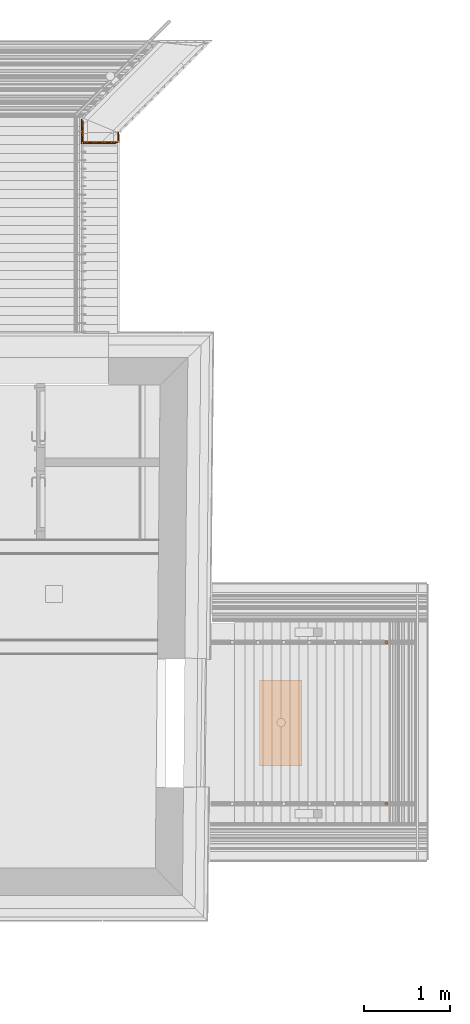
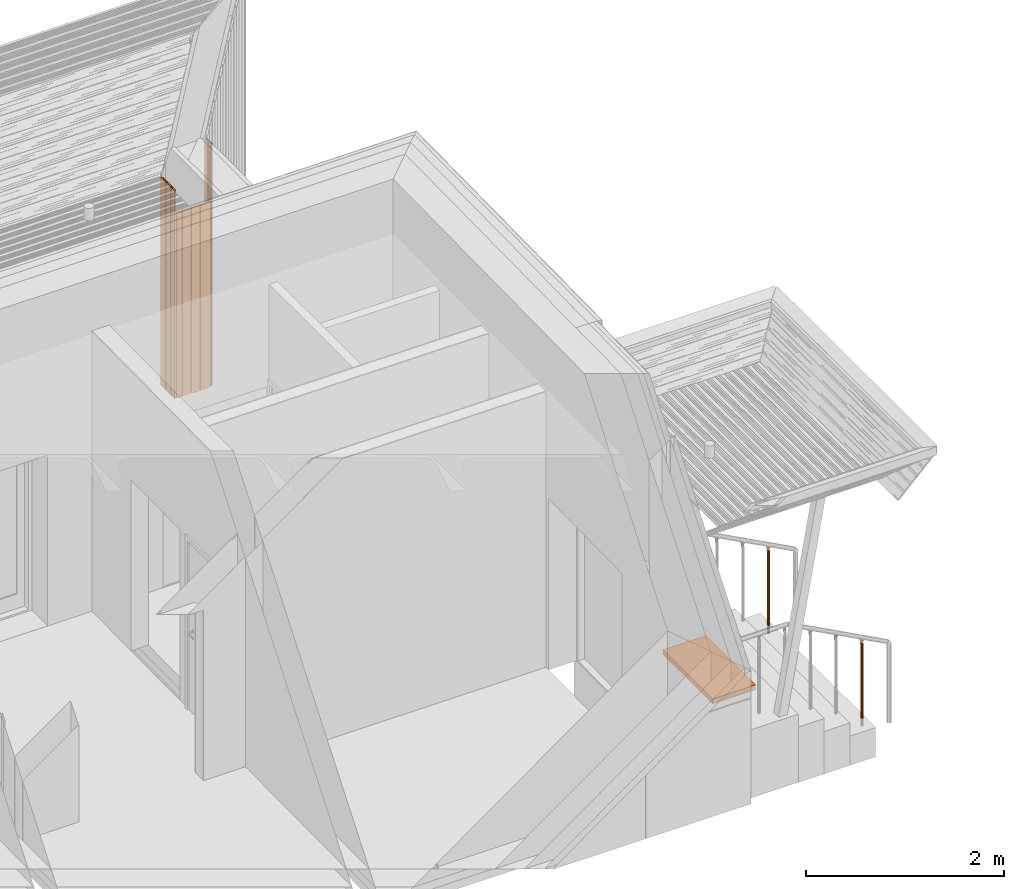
# One storey, part 356 of 418: 11 proxies, 2 elements without a shape of their own.
"""IFC2X3 building model written with IfcOpenShell, lengths in millimetres."""

from ifc_helpers import new_model, entity, si_unit, converted_unit, derived_unit, money_unit, direction, frame, origin_with_axes, place, context, subcontext, project, spatial, polyline, outline, extrude, faceted_brep, source, transform, mapped, material, type_object, element, aggregate, save


model = new_model("IFC2X3")

# Units and contexts
model_context = context("Model", 3, precision=0.01, world=origin_with_axes(), true_north=direction((0.0, 1.0)))
body_context = subcontext(model_context, "Body", "Model", "MODEL_VIEW")
ifc_project = project(units=[si_unit("LENGTHUNIT", "METRE", prefix="MILLI"), si_unit("AREAUNIT", "SQUARE_METRE"), si_unit("VOLUMEUNIT", "CUBIC_METRE"), converted_unit("PLANEANGLEUNIT", "DEGREE", entity("IfcPlaneAngleMeasure", 0.0174532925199), si_unit("PLANEANGLEUNIT", "RADIAN"), dimensions=[0, 0, 0, 0, 0, 0, 0]), si_unit("SOLIDANGLEUNIT", "STERADIAN"), money_unit("EUR"), converted_unit("TIMEUNIT", "Year", entity("IfcTimeMeasure", 31556926.0), si_unit("TIMEUNIT", "SECOND"), dimensions=[0, 0, 1, 0, 0, 0, 0]), si_unit("MASSUNIT", "GRAM", prefix="KILO"), si_unit("THERMODYNAMICTEMPERATUREUNIT", "DEGREE_CELSIUS"), si_unit("LUMINOUSINTENSITYUNIT", "LUMEN"), si_unit("ENERGYUNIT", "JOULE", prefix="MEGA"), derived_unit("THERMALCONDUCTANCEUNIT", [(si_unit("POWERUNIT", "WATT"), 1), (si_unit("LENGTHUNIT", "METRE"), -1), (si_unit("THERMODYNAMICTEMPERATUREUNIT", "KELVIN"), -1)]), derived_unit("SPECIFICHEATCAPACITYUNIT", [(si_unit("ENERGYUNIT", "JOULE"), 1), (si_unit("MASSUNIT", "GRAM", prefix="KILO"), -1), (si_unit("THERMODYNAMICTEMPERATUREUNIT", "KELVIN"), -1)]), derived_unit("MASSDENSITYUNIT", [(si_unit("MASSUNIT", "GRAM", prefix="KILO"), 1), (si_unit("VOLUMEUNIT", "CUBIC_METRE"), -1)])], contexts=[model_context])

# Site, building, storey
site_placement = place(None, origin_with_axes())
site = spatial("IfcSite", under=ifc_project, at=site_placement, Name="Paldiski mnt 245/1, Tallinn, Harjumaa", CompositionType="COMPLEX")
building_placement = place(site_placement, origin_with_axes())
building = spatial("IfcBuilding", under=site, at=building_placement, Name="RKAS Hoone üldnimetus (kasutust iseloomustav) -> IFC Project Manager -> SOLIBRI", CompositionType="ELEMENT")
storey_placement = place(building_placement, origin_with_axes())
storey = spatial("IfcBuildingStorey", under=building, at=storey_placement, Name="Esimene korrus", CompositionType="ELEMENT", Elevation=0.0)

# Proxies
ifc_material_1 = material(Name="ET-01_Puit - Konstruktsioon")
building_element_proxy_type_1 = type_object("IfcBuildingElementProxyType", Name="ET-01_Puit - Konstruktsioon 2280", PredefinedType="NOTDEFINED")
proxy_1_placement = place(storey_placement, frame((-48034.0862621, 38595.147957, 2280.0), z_axis=(0.0, 0.0, 1.0), x_axis=(1.0, 0.0, 0.0)))
element("IfcBuildingElementProxy", 1, at=proxy_1_placement, inside=storey, type_object=building_element_proxy_type_1, material=ifc_material_1, Name="Varikatus", context=body_context, shape_type="SweptSolid", body=[
    extrude(outline(polyline([(0.0, 0.0), (-3.55868223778e-07, 10.4999992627), (-37.5260948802, 10.5000002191), (-37.5260958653, 3.49999970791), (-43.8885929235, 3.49999940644), (-43.8885931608, 10.4999989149), (-58.8277103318, 10.4999987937), (-58.8277100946, 3.49999928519), (-64.9546507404, 3.4999997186), (-64.9546509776, 10.4999992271), (-79.7831433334, 10.5000001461), (-79.7831443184, 3.49999963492), (-85.4238127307, 3.5000002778), (-85.423812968, 10.4999997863), (-100.000000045, 10.4999994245), (-100.000001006, -0.500000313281), (-120.000000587, -0.500001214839), (-120.000000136, -10.5000010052), (-20.0000004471, -10.500001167), (-20.0000005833, 3.20746096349e-07), (0.0, 0.0)])), frame((0.0, 0.0, -2280.0), z_axis=(0.0, 0.0, 1.0), x_axis=(1.0, 0.0, 0.0)), (0.0, 0.0, 1.0), 2280.0),
])
proxy_2_placement = place(storey_placement, frame((-47929.0862621, 38595.147957, 2280.0), z_axis=(0.0, 0.0, 1.0), x_axis=(1.0, 0.0, 0.0)))
element("IfcBuildingElementProxy", 2, at=proxy_2_placement, inside=storey, type_object=building_element_proxy_type_1, material=ifc_material_1, Name="Varikatus", context=body_context, shape_type="SweptSolid", body=[
    extrude(outline(polyline([(0.0, 0.0), (-3.55868223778e-07, 10.4999992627), (-37.5260948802, 10.5000002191), (-37.5260958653, 3.49999970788), (-43.8885929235, 3.49999940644), (-43.8885931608, 10.4999989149), (-58.8277103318, 10.4999987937), (-58.8277100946, 3.49999928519), (-64.9546507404, 3.49999971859), (-64.9546509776, 10.4999992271), (-79.7831433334, 10.5000001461), (-79.7831443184, 3.4999996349), (-85.4238127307, 3.50000027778), (-85.423812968, 10.4999997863), (-100.000000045, 10.4999994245), (-100.000001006, -0.500000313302), (-120.000000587, -0.50000121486), (-120.000000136, -10.5000010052), (-20.0000004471, -10.500001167), (-20.0000005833, 3.20753201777e-07), (0.0, 0.0)])), frame((0.0, 0.0, -2280.0), z_axis=(0.0, 0.0, 1.0), x_axis=(1.0, 0.0, 0.0)), (0.0, 0.0, 1.0), 2280.0),
])
proxy_3_placement = place(storey_placement, frame((-47824.0862621, 38595.147957, 2280.0), z_axis=(0.0, 0.0, 1.0), x_axis=(1.0, 0.0, 0.0)))
element("IfcBuildingElementProxy", 3, at=proxy_3_placement, inside=storey, type_object=building_element_proxy_type_1, material=ifc_material_1, Name="Varikatus", context=body_context, shape_type="SweptSolid", body=[
    extrude(outline(polyline([(0.0, 0.0), (-3.55854012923e-07, 10.4999992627), (-37.5260948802, 10.5000002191), (-37.5260958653, 3.49999970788), (-43.8885929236, 3.49999940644), (-43.8885931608, 10.4999989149), (-58.8277103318, 10.4999987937), (-58.8277100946, 3.49999928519), (-64.9546507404, 3.49999971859), (-64.9546509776, 10.4999992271), (-79.7831433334, 10.5000001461), (-79.7831443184, 3.4999996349), (-85.4238127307, 3.50000027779), (-85.423812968, 10.4999997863), (-100.000000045, 10.4999994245), (-100.000001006, -0.500000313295), (-120.000000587, -0.50000121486), (-120.000000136, -10.5000010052), (-20.0000004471, -10.500001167), (-20.0000005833, 3.20746096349e-07), (0.0, 0.0)])), frame((0.0, 0.0, -2280.0), z_axis=(0.0, 0.0, 1.0), x_axis=(1.0, 0.0, 0.0)), (0.0, 0.0, 1.0), 2280.0),
])
proxy_4_placement = place(storey_placement, frame((-48139.0862621, 38605.6479558, 2280.0), z_axis=(0.0, 0.0, 1.0), x_axis=(1.0, 0.0, 0.0)))
element("IfcBuildingElementProxy", 4, at=proxy_4_placement, inside=storey, type_object=building_element_proxy_type_1, material=ifc_material_1, Name="Varikatus", context=body_context, shape_type="SweptSolid", body=[
    extrude(outline(polyline([(0.0, 0.0), (-37.526094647, 1.74001968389e-06), (-37.5260959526, -6.99999911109), (-43.8885928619, -7.00000009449), (-43.8885924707, 6.5867311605e-09), (-58.8277106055, 2.26215490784e-07), (-58.8277100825, -6.9999991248), (-64.9546509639, -6.99999889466), (-64.954651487, 4.56360282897e-07), (-79.7831438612, 1.02994590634e-06), (-79.7831442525, -6.99999907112), (-85.4238125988, -6.99999889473), (-85.4238126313, -21.0000000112), (-20.0000004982, -21.0000003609), (-20.0000010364, -10.4999988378), (-4.75850470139e-08, -10.4999989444), (0.0, 0.0)])), frame((0.0, 0.0, -2280.0), z_axis=(0.0, 0.0, 1.0), x_axis=(1.0, 0.0, 0.0)), (0.0, 0.0, 1.0), 2280.0),
])
ifc_material_2 = material(Name="Raud")
building_element_proxy_type_2 = type_object("IfcBuildingElementProxyType", Name="Jalatsipuhastusrest", PredefinedType="NOTDEFINED")
shared_shape_1 = source(origin_with_axes(), body_context, "Body", "Brep", [
    faceted_brep([(5.0, 995.0, 280.0), (5.0, 5.0, 280.0), (5.0, 5.0, 300.0), (5.0, 995.0, 300.0), (495.0, 995.0, 280.0), (495.0, 5.0, 280.0), (495.0, 5.0, 300.0), (495.0, 995.0, 300.0)], [[[0, 1, 2, 3]], [[0, 4, 5, 1]], [[1, 5, 6, 2]], [[3, 2, 6, 7]], [[4, 0, 3, 7]], [[5, 4, 7, 6]]]),
    faceted_brep([(0.0, 1000.0, 240.0), (0.0, 0.0, 240.0), (0.0, 0.0, 300.0), (0.0, 1000.0, 300.0), (500.0, 1000.0, 240.0), (500.0, 0.0, 240.0), (5.0, 995.0, 240.0), (5.0, 5.0, 240.0), (495.0, 5.0, 240.0), (495.0, 995.0, 240.0), (500.0, 0.0, 300.0), (500.0, 1000.0, 300.0), (5.0, 995.0, 300.0), (495.0, 995.0, 300.0), (495.0, 5.0, 300.0), (5.0, 5.0, 300.0)], [[[0, 1, 2, 3]], [[0, 4, 5, 1], [6, 7, 8, 9]], [[1, 5, 10, 2]], [[3, 2, 10, 11], [12, 13, 14, 15]], [[4, 0, 3, 11]], [[5, 4, 11, 10]], [[7, 6, 12, 15]], [[8, 7, 15, 14]], [[9, 8, 14, 13]], [[6, 9, 13, 12]]]),
    faceted_brep([(0.0, 1000.0, 240.0), (0.0, 0.0, 240.0), (0.0, 0.0, 245.0), (0.0, 1000.0, 245.0), (500.0, 1000.0, 240.0), (500.0, 0.0, 240.0), (195.0, 495.1881235, 240.0), (196.67114717, 485.71057695, 240.0), (199.96266455, 476.66720728, 240.0), (204.77454104, 468.33279271, 240.0), (210.96057022, 460.96057022, 240.0), (218.33279272, 454.77454104, 240.0), (226.66720729, 449.96266454, 240.0), (235.71057695, 446.67114717, 240.0), (245.18812351, 445.0, 240.0), (254.8118765, 445.0, 240.0), (264.28942305, 446.67114717, 240.0), (273.33279272, 449.96266454, 240.0), (281.66720729, 454.77454104, 240.0), (289.03942978, 460.96057022, 240.0), (295.22545896, 468.33279271, 240.0), (300.03733546, 476.66720728, 240.0), (303.32885283, 485.71057695, 240.0), (305.0, 495.1881235, 240.0), (305.0, 500.0, 240.0), (305.0, 504.81187649, 240.0), (303.32885283, 514.28942305, 240.0), (300.03733546, 523.33279271, 240.0), (295.22545896, 531.66720728, 240.0), (289.03942978, 539.03942978, 240.0), (281.66720729, 545.22545896, 240.0), (273.33279272, 550.03733545, 240.0), (264.28942305, 553.32885283, 240.0), (254.8118765, 555.0, 240.0), (245.18812351, 555.0, 240.0), (235.71057695, 553.32885283, 240.0), (226.66720729, 550.03733545, 240.0), (218.33279272, 545.22545896, 240.0), (210.96057022, 539.03942978, 240.0), (204.77454104, 531.66720728, 240.0), (199.96266455, 523.33279271, 240.0), (196.67114717, 514.28942305, 240.0), (195.0, 504.81187649, 240.0), (500.0, 0.0, 245.0), (500.0, 1000.0, 245.0), (195.0, 495.1881235, 245.0), (195.0, 504.81187649, 245.0), (196.67114717, 514.28942305, 245.0), (199.96266455, 523.33279271, 245.0), (204.77454104, 531.66720728, 245.0), (210.96057022, 539.03942978, 245.0), (218.33279272, 545.22545896, 245.0), (226.66720729, 550.03733545, 245.0), (235.71057695, 553.32885283, 245.0), (245.18812351, 555.0, 245.0), (254.8118765, 555.0, 245.0), (264.28942305, 553.32885283, 245.0), (273.33279272, 550.03733545, 245.0), (281.66720729, 545.22545896, 245.0), (289.03942978, 539.03942978, 245.0), (295.22545896, 531.66720728, 245.0), (300.03733546, 523.33279271, 245.0), (303.32885283, 514.28942305, 245.0), (305.0, 504.81187649, 245.0), (305.0, 500.0, 245.0), (305.0, 495.1881235, 245.0), (303.32885283, 485.71057695, 245.0), (300.03733546, 476.66720728, 245.0), (295.22545896, 468.33279271, 245.0), (289.03942978, 460.96057022, 245.0), (281.66720729, 454.77454104, 245.0), (273.33279272, 449.96266454, 245.0), (264.28942305, 446.67114717, 245.0), (254.8118765, 445.0, 245.0), (245.18812351, 445.0, 245.0), (235.71057695, 446.67114717, 245.0), (226.66720729, 449.96266454, 245.0), (218.33279272, 454.77454104, 245.0), (210.96057022, 460.96057022, 245.0), (204.77454104, 468.33279271, 245.0), (199.96266455, 476.66720728, 245.0), (196.67114717, 485.71057695, 245.0)], [[[0, 1, 2, 3]], [[0, 4, 5, 1], [6, 7, 8, 9, 10, 11, 12, 13, 14, 15, 16, 17, 18, 19, 20, 21, 22, 23, 24, 25, 26, 27, 28, 29, 30, 31, 32, 33, 34, 35, 36, 37, 38, 39, 40, 41, 42]], [[1, 5, 43, 2]], [[3, 2, 43, 44], [45, 46, 47, 48, 49, 50, 51, 52, 53, 54, 55, 56, 57, 58, 59, 60, 61, 62, 63, 64, 65, 66, 67, 68, 69, 70, 71, 72, 73, 74, 75, 76, 77, 78, 79, 80, 81]], [[4, 0, 3, 44]], [[5, 4, 44, 43]], [[7, 6, 45, 81]], [[8, 7, 81, 80]], [[9, 8, 80, 79]], [[10, 9, 79, 78]], [[11, 10, 78, 77]], [[12, 11, 77, 76]], [[13, 12, 76, 75]], [[14, 13, 75, 74]], [[15, 14, 74, 73]], [[16, 15, 73, 72]], [[17, 16, 72, 71]], [[18, 17, 71, 70]], [[19, 18, 70, 69]], [[20, 19, 69, 68]], [[21, 20, 68, 67]], [[22, 21, 67, 66]], [[23, 22, 66, 65]], [[24, 23, 65, 64]], [[25, 24, 64, 63]], [[26, 25, 63, 62]], [[27, 26, 62, 61]], [[28, 27, 61, 60]], [[29, 28, 60, 59]], [[30, 29, 59, 58]], [[31, 30, 58, 57]], [[32, 31, 57, 56]], [[33, 32, 56, 55]], [[34, 33, 55, 54]], [[35, 34, 54, 53]], [[36, 35, 53, 52]], [[37, 36, 52, 51]], [[38, 37, 51, 50]], [[39, 38, 50, 49]], [[40, 39, 49, 48]], [[41, 40, 48, 47]], [[42, 41, 47, 46]], [[6, 42, 46, 45]]]),
    faceted_brep([(305.0, 500.0, 0.0), (303.125920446, 485.764952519, 0.0), (297.631397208, 472.5, 0.0), (288.890872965, 461.109127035, 0.0), (277.5, 452.368602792, 0.0), (264.235047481, 446.874079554, 0.0), (250.0, 445.0, 0.0), (235.764952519, 446.874079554, 0.0), (222.5, 452.368602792, 0.0), (211.109127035, 461.109127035, 0.0), (202.368602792, 472.5, 0.0), (196.874079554, 485.764952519, 0.0), (195.0, 500.0, 0.0), (196.874079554, 514.235047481, 0.0), (202.368602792, 527.5, 0.0), (211.109127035, 538.890872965, 0.0), (222.5, 547.631397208, 0.0), (235.764952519, 553.125920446, 0.0), (250.0, 555.0, 0.0), (264.235047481, 553.125920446, 0.0), (277.5, 547.631397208, 0.0), (288.890872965, 538.890872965, 0.0), (297.631397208, 527.5, 0.0), (303.125920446, 514.235047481, 0.0), (293.301270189, 475.0, 0.0), (298.296291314, 487.059047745, 0.0), (300.0, 500.0, 0.0), (298.296291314, 512.940952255, 0.0), (293.301270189, 525.0, 0.0), (285.355339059, 535.355339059, 0.0), (275.0, 543.301270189, 0.0), (262.940952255, 548.296291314, 0.0), (250.0, 550.0, 0.0), (237.059047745, 548.296291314, 0.0), (225.0, 543.301270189, 0.0), (214.644660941, 535.355339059, 0.0), (206.698729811, 525.0, 0.0), (201.703708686, 512.940952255, 0.0), (200.0, 500.0, 0.0), (201.703708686, 487.059047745, 0.0), (206.698729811, 475.0, 0.0), (214.644660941, 464.644660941, 0.0), (225.0, 456.698729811, 0.0), (237.059047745, 451.703708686, 0.0), (250.0, 450.0, 0.0), (262.940952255, 451.703708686, 0.0), (275.0, 456.698729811, 0.0), (285.355339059, 464.644660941, 0.0), (303.125920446, 485.764952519, 240.0), (305.0, 500.0, 240.0), (297.631397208, 472.5, 240.0), (288.890872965, 461.109127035, 240.0), (277.5, 452.368602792, 240.0), (264.235047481, 446.874079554, 240.0), (250.0, 445.0, 240.0), (235.764952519, 446.874079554, 240.0), (222.5, 452.368602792, 240.0), (211.109127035, 461.109127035, 240.0), (202.368602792, 472.5, 240.0), (196.874079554, 485.764952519, 240.0), (195.0, 500.0, 240.0), (196.874079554, 514.235047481, 240.0), (202.368602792, 527.5, 240.0), (211.109127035, 538.890872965, 240.0), (222.5, 547.631397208, 240.0), (235.764952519, 553.125920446, 240.0), (250.0, 555.0, 240.0), (264.235047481, 553.125920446, 240.0), (277.5, 547.631397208, 240.0), (288.890872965, 538.890872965, 240.0), (297.631397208, 527.5, 240.0), (303.125920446, 514.235047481, 240.0), (293.301270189, 475.0, 240.0), (298.296291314, 487.059047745, 240.0), (300.0, 500.0, 240.0), (298.296291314, 512.940952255, 240.0), (293.301270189, 525.0, 240.0), (285.355339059, 535.355339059, 240.0), (275.0, 543.301270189, 240.0), (262.940952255, 548.296291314, 240.0), (250.0, 550.0, 240.0), (237.059047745, 548.296291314, 240.0), (225.0, 543.301270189, 240.0), (214.644660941, 535.355339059, 240.0), (206.698729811, 525.0, 240.0), (201.703708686, 512.940952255, 240.0), (200.0, 500.0, 240.0), (201.703708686, 487.059047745, 240.0), (206.698729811, 475.0, 240.0), (214.644660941, 464.644660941, 240.0), (225.0, 456.698729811, 240.0), (237.059047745, 451.703708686, 240.0), (250.0, 450.0, 240.0), (262.940952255, 451.703708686, 240.0), (275.0, 456.698729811, 240.0), (285.355339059, 464.644660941, 240.0)], [[[0, 1, 2, 3, 4, 5, 6, 7, 8, 9, 10, 11, 12, 13, 14, 15, 16, 17, 18, 19, 20, 21, 22, 23], [24, 25, 26, 27, 28, 29, 30, 31, 32, 33, 34, 35, 36, 37, 38, 39, 40, 41, 42, 43, 44, 45, 46, 47]], [[48, 1, 0, 49]], [[50, 2, 1, 48]], [[51, 3, 2, 50]], [[52, 4, 3, 51]], [[53, 5, 4, 52]], [[54, 6, 5, 53]], [[55, 7, 6, 54]], [[56, 8, 7, 55]], [[57, 9, 8, 56]], [[58, 10, 9, 57]], [[59, 11, 10, 58]], [[60, 12, 11, 59]], [[61, 13, 12, 60]], [[62, 14, 13, 61]], [[63, 15, 14, 62]], [[64, 16, 15, 63]], [[65, 17, 16, 64]], [[66, 18, 17, 65]], [[67, 19, 18, 66]], [[68, 20, 19, 67]], [[69, 21, 20, 68]], [[70, 22, 21, 69]], [[71, 23, 22, 70]], [[49, 0, 23, 71]], [[72, 73, 25, 24]], [[73, 74, 26, 25]], [[74, 75, 27, 26]], [[75, 76, 28, 27]], [[76, 77, 29, 28]], [[77, 78, 30, 29]], [[78, 79, 31, 30]], [[79, 80, 32, 31]], [[80, 81, 33, 32]], [[81, 82, 34, 33]], [[82, 83, 35, 34]], [[83, 84, 36, 35]], [[84, 85, 37, 36]], [[85, 86, 38, 37]], [[86, 87, 39, 38]], [[87, 88, 40, 39]], [[88, 89, 41, 40]], [[89, 90, 42, 41]], [[90, 91, 43, 42]], [[91, 92, 44, 43]], [[92, 93, 45, 44]], [[93, 94, 46, 45]], [[94, 95, 47, 46]], [[95, 72, 24, 47]], [[50, 48, 49, 71, 70, 69, 68, 67, 66, 65, 64, 63, 62, 61, 60, 59, 58, 57, 56, 55, 54, 53, 52, 51], [76, 75, 74, 73, 72, 95, 94, 93, 92, 91, 90, 89, 88, 87, 86, 85, 84, 83, 82, 81, 80, 79, 78, 77]]]),
])
proxy_5_placement = place(storey_placement, frame((-46173.4064551, 31332.2016801, -320.0), z_axis=(0.0, 0.0, 1.0), x_axis=(1.0, 0.0, 0.0)))
element("IfcBuildingElementProxy", 5, at=proxy_5_placement, inside=storey, type_object=building_element_proxy_type_2, material=ifc_material_2, Name="Jalatsipuhastusrest", context=body_context, shape_type="MappedRepresentation", body=[
    mapped(shared_shape_1, transform((0.0, 0.0, 0.0))),
])
building_element_proxy_type_3 = type_object("IfcBuildingElementProxyType", Name="ET-01_Puit - Konstruktsioon 2560", PredefinedType="NOTDEFINED")
proxy_6_placement = place(storey_placement, frame((-48233.2840943, 38584.6828152, 2560.10177239), z_axis=(0.0, 0.0, 1.0), x_axis=(1.0, 0.0, 0.0)))
element("IfcBuildingElementProxy", 6, at=proxy_6_placement, inside=storey, type_object=building_element_proxy_type_3, material=ifc_material_1, Name="Varikatus", context=body_context, shape_type="SweptSolid", body=[
    extrude(outline(polyline([(0.0, 0.0), (1.29272592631e-06, 18.2736548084), (7.0000008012, 18.2736550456), (7.00000172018, 33.1021474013), (1.20903109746e-06, 33.1021483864), (1.85191595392e-06, 38.7428167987), (7.00000136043, 38.7428170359), (7.00000099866, 53.3190041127), (-3.99999873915, 53.3190050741), (-3.99999964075, 73.3190046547), (-13.9999994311, 73.3190042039), (-13.9999995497, 0.0), (0.0, 0.0)])), frame((0.0, 0.0, -2560.10177239), z_axis=(0.0, 0.0, 1.0), x_axis=(1.0, 0.0, 0.0)), (0.0, 0.0, 1.0), 2560.10177239),
])
proxy_7_placement = place(storey_placement, frame((-48235.7840927, 38643.001819, 2560.10177239), z_axis=(0.0, 0.0, 1.0), x_axis=(1.0, 0.0, 0.0)))
element("IfcBuildingElementProxy", 7, at=proxy_7_placement, inside=storey, type_object=building_element_proxy_type_3, material=ifc_material_1, Name="Varikatus", context=body_context, shape_type="SweptSolid", body=[
    extrude(outline(polyline([(0.0, 0.0), (10.4999992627, 3.55868223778e-07), (10.500000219, 37.5260948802), (3.49999970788, 37.5260958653), (3.49999940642, 43.8885929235), (10.4999989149, 43.8885931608), (10.4999987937, 58.8277103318), (3.49999928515, 58.8277100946), (3.49999971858, 64.9546507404), (10.4999992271, 64.9546509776), (10.500000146, 79.7831433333), (3.49999963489, 79.7831443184), (3.50000027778, 85.4238127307), (10.4999997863, 85.423812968), (10.4999994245, 100.000000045), (-0.500000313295, 100.000001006), (-0.500001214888, 120.000000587), (-10.5000010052, 120.000000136), (-10.500001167, 20.0000004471), (3.20746096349e-07, 20.0000005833), (0.0, 0.0)])), frame((0.0, 0.0, -2560.10177239), z_axis=(0.0, 0.0, 1.0), x_axis=(1.0, 0.0, 0.0)), (0.0, 0.0, 1.0), 2560.10177239),
])
proxy_8_placement = place(storey_placement, frame((-48235.7840927, 38748.0018187, 2560.10177239), z_axis=(0.0, 0.0, 1.0), x_axis=(1.0, 0.0, 0.0)))
element("IfcBuildingElementProxy", 8, at=proxy_8_placement, inside=storey, type_object=building_element_proxy_type_3, material=ifc_material_1, Name="Varikatus", context=body_context, shape_type="SweptSolid", body=[
    extrude(outline(polyline([(0.0, 0.0), (10.4999992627, 3.55861118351e-07), (10.500000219, 37.5260948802), (3.49999970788, 37.5260958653), (3.49999940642, 43.8885929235), (10.4999989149, 43.8885931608), (10.4999987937, 58.8277103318), (3.49999928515, 58.8277100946), (3.49999971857, 64.9546507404), (10.4999992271, 64.9546509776), (10.500000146, 79.7831433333), (3.4999996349, 79.7831443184), (3.50000027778, 85.4238127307), (10.4999997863, 85.423812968), (10.4999994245, 100.000000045), (-0.500000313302, 100.000001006), (-0.500001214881, 120.000000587), (-10.5000010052, 120.000000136), (-10.500001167, 20.0000004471), (3.20746096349e-07, 20.0000005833), (0.0, 0.0)])), frame((0.0, 0.0, -2560.10177239), z_axis=(0.0, 0.0, 1.0), x_axis=(1.0, 0.0, 0.0)), (0.0, 0.0, 1.0), 2560.10177239),
])
building_element_proxy_type_4 = type_object("IfcBuildingElementProxyType", Name="ET-01_Puit - Konstruktsioon 2982", PredefinedType="NOTDEFINED")
proxy_9_placement = place(storey_placement, frame((-47812.7840945, 38714.3722797, 2982.0), z_axis=(0.0, 0.0, 1.0), x_axis=(1.0, 0.0, 0.0)))
element("IfcBuildingElementProxy", 9, at=proxy_9_placement, inside=storey, type_object=building_element_proxy_type_4, material=ifc_material_1, Name="Varikatus", context=body_context, shape_type="SweptSolid", body=[
    extrude(outline(polyline([(0.0, 0.0), (-10.4999992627, -3.5588954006e-07), (-10.500000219, -37.5260948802), (-3.49999970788, -37.5260958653), (-3.49999940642, -43.8885929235), (-10.4999989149, -43.8885931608), (-10.4999987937, -58.8277103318), (-3.49999928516, -58.8277100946), (-3.49999971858, -64.9546507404), (-10.4999992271, -64.9546509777), (-10.500000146, -79.7831433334), (-3.4999996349, -79.7831443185), (-3.50000027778, -85.4238127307), (-10.4999997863, -85.423812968), (-10.4999994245, -100.000000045), (0.500000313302, -100.000001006), (0.500001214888, -120.000000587), (10.5000010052, -120.000000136), (10.500001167, -20.0000004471), (-3.20738990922e-07, -20.0000005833), (0.0, 0.0)])), frame((0.0, 0.0, -2982.0), z_axis=(0.0, 0.0, 1.0), x_axis=(1.0, 0.0, 0.0)), (0.0, 0.0, 1.0), 2982.0),
])

building_element_proxy_type_5 = type_object("IfcBuildingElementProxyType", Name="Railing Type", PredefinedType="NOTDEFINED")
proxy_10_placement = place(storey_placement, frame((-46768.8433803, 32771.6822003, -641.218687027), z_axis=(0.0, 0.0, 1.0), x_axis=(1.0, 0.0, 0.0)))
proxy_10 = element("IfcBuildingElementProxy", 10, at=proxy_10_placement, inside=storey, type_object=building_element_proxy_type_5, Name="Trepipiire")
ifc_material_3 = material(Name="RAL7016")
building_element_proxy_type_6 = type_object("IfcBuildingElementProxyType", Name="IfcBuildingElementProxy", PredefinedType="NOTDEFINED")
shared_shape_2 = source(origin_with_axes(), body_context, "Body", "Brep", [
    faceted_brep([(0.0, -15.0, 0.0), (2.604722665, -14.7721162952, 0.0), (2.604722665, -14.7721162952, 1025.37934024), (0.0, -15.0, 1025.5009249), (-2.604722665, -14.7721162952, 0.0), (-5.13030214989, -14.0953893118, 0.0), (-7.5, -12.9903810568, 0.0), (-9.6418141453, -11.4906666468, 0.0), (-11.4906666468, -9.6418141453, 0.0), (-12.9903810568, -7.5, 0.0), (-14.0953893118, -5.13030214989, 0.0), (-14.7721162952, -2.604722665, 0.0), (-15.0, 0.0, 0.0), (-14.7721162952, 2.604722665, 0.0), (-14.0953893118, 5.13030214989, 0.0), (-12.9903810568, 7.5, 0.0), (-11.4906666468, 9.6418141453, 0.0), (-9.6418141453, 11.4906666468, 0.0), (-7.5, 12.9903810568, 0.0), (-5.13030214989, 14.0953893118, 0.0), (-2.604722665, 14.7721162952, 0.0), (0.0, 15.0, 0.0), (2.604722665, 14.7721162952, 0.0), (5.13030214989, 14.0953893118, 0.0), (7.5, 12.9903810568, 0.0), (9.6418141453, 11.4906666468, 0.0), (11.4906666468, 9.6418141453, 0.0), (12.9903810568, 7.5, 0.0), (14.0953893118, 5.13030214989, 0.0), (14.7721162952, 2.604722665, 0.0), (15.0, 0.0, 0.0), (14.7721162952, -2.604722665, 0.0), (14.0953893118, -5.13030214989, 0.0), (12.9903810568, -7.5, 0.0), (11.4906666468, -9.6418141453, 0.0), (9.6418141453, -11.4906666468, 0.0), (7.5, -12.9903810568, 0.0), (5.13030214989, -14.0953893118, 0.0), (5.13030214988, -14.0953893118, 1025.01828054), (7.5, -12.9903810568, 1024.42871641), (9.64181414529, -11.4906666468, 1023.62856148), (11.4906666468, -9.6418141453, 1022.64212802), (12.9903810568, -7.5, 1021.49938834), (14.0953893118, -5.13030214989, 1020.235064), (14.7721162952, -2.604722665, 1018.88757084), (15.0, 0.0, 1017.49785178), (14.7721162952, 2.604722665, 1016.10813272), (14.0953893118, 5.13030214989, 1014.76063956), (12.9903810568, 7.5, 1013.49631522), (11.4906666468, 9.6418141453, 1012.35357554), (9.64181414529, 11.4906666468, 1011.36714209), (7.5, 12.9903810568, 1010.56698715), (5.13030214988, 14.0953893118, 1009.97742302), (2.604722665, 14.7721162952, 1009.61636332), (0.0, 15.0, 1009.49477866), (-2.60472266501, 14.7721162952, 1009.61636332), (-5.13030214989, 14.0953893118, 1009.97742302), (-7.5, 12.9903810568, 1010.56698715), (-9.6418141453, 11.4906666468, 1011.36714209), (-11.4906666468, 9.6418141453, 1012.35357554), (-12.9903810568, 7.5, 1013.49631522), (-14.0953893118, 5.13030214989, 1014.76063956), (-14.7721162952, 2.604722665, 1016.10813272), (-15.0, 0.0, 1017.49785178), (-14.7721162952, -2.604722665, 1018.88757084), (-14.0953893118, -5.13030214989, 1020.235064), (-12.9903810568, -7.5, 1021.49938834), (-11.4906666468, -9.6418141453, 1022.64212802), (-9.6418141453, -11.4906666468, 1023.62856148), (-7.5, -12.9903810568, 1024.42871641), (-5.13030214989, -14.0953893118, 1025.01828054), (-2.60472266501, -14.7721162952, 1025.37934024)], [[[0, 1, 2, 3]], [[0, 4, 5, 6, 7, 8, 9, 10, 11, 12, 13, 14, 15, 16, 17, 18, 19, 20, 21, 22, 23, 24, 25, 26, 27, 28, 29, 30, 31, 32, 33, 34, 35, 36, 37, 1]], [[1, 37, 38, 2]], [[3, 2, 38, 39, 40, 41, 42, 43, 44, 45, 46, 47, 48, 49, 50, 51, 52, 53, 54, 55, 56, 57, 58, 59, 60, 61, 62, 63, 64, 65, 66, 67, 68, 69, 70, 71]], [[4, 0, 3, 71]], [[5, 4, 71, 70]], [[6, 5, 70, 69]], [[7, 6, 69, 68]], [[8, 7, 68, 67]], [[9, 8, 67, 66]], [[10, 9, 66, 65]], [[11, 10, 65, 64]], [[12, 11, 64, 63]], [[13, 12, 63, 62]], [[14, 13, 62, 61]], [[15, 14, 61, 60]], [[16, 15, 60, 59]], [[17, 16, 59, 58]], [[18, 17, 58, 57]], [[19, 18, 57, 56]], [[20, 19, 56, 55]], [[21, 20, 55, 54]], [[22, 21, 54, 53]], [[23, 22, 53, 52]], [[24, 23, 52, 51]], [[25, 24, 51, 50]], [[26, 25, 50, 49]], [[27, 26, 49, 48]], [[28, 27, 48, 47]], [[29, 28, 47, 46]], [[30, 29, 46, 45]], [[31, 30, 45, 44]], [[32, 31, 44, 43]], [[33, 32, 43, 42]], [[34, 33, 42, 41]], [[35, 34, 41, 40]], [[36, 35, 40, 39]], [[37, 36, 39, 38]]]),
])
proxy_11_placement = place(proxy_10_placement, frame((2078.09248792, 0.0, 41.3247948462), z_axis=(0.0, 0.0, 1.0), x_axis=(1.0, 0.0, 0.0)))
proxy_11 = element("IfcBuildingElementProxy", 11, at=proxy_11_placement, type_object=building_element_proxy_type_6, material=ifc_material_3, Name="SISEPOST - 001", context=body_context, shape_type="MappedRepresentation", body=[
    mapped(shared_shape_2, transform((0.0, 0.0, 0.0), x_axis=(0.0, -1.0, 0.0), y_axis=(1.0, 0.0, 0.0), z_axis=(0.0, 0.0, 1.0))),
])
aggregate(proxy_10, [proxy_11])

proxy_12_placement = place(storey_placement, frame((-46768.8433803, 30891.790867, -641.218687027), z_axis=(0.0, 0.0, 1.0), x_axis=(1.0, 0.0, 0.0)))
proxy_12 = element("IfcBuildingElementProxy", 12, at=proxy_12_placement, inside=storey, type_object=building_element_proxy_type_5, Name="Trepipiire")
proxy_13_placement = place(proxy_12_placement, frame((2078.09248792, 0.0, 41.3247948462), z_axis=(0.0, 0.0, 1.0), x_axis=(1.0, 0.0, 0.0)))
proxy_13 = element("IfcBuildingElementProxy", 13, at=proxy_13_placement, type_object=building_element_proxy_type_6, material=ifc_material_3, Name="SISEPOST - 001", context=body_context, shape_type="MappedRepresentation", body=[
    mapped(shared_shape_2, transform((0.0, 0.0, 0.0), x_axis=(0.0, -1.0, 0.0), y_axis=(1.0, 0.0, 0.0), z_axis=(0.0, 0.0, 1.0))),
])
aggregate(proxy_12, [proxy_13])

save(model, "model.ifc")
